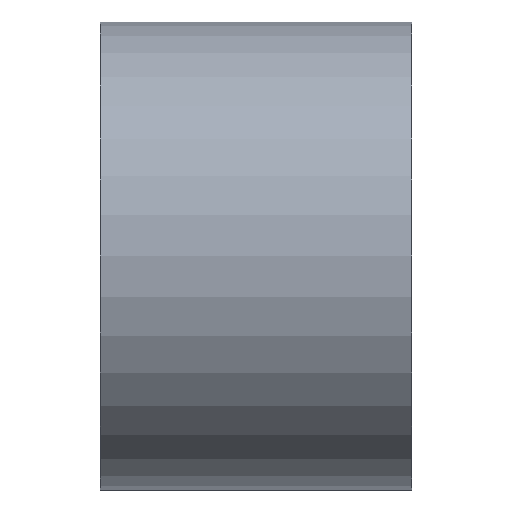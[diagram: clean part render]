
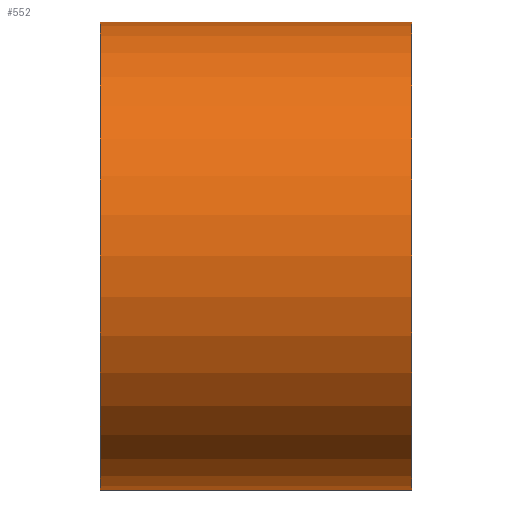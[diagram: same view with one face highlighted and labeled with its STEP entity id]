
A CAD part, front view. The second image highlights one B-rep face of the part: STEP entity #552.
In plain terms, the highlighted cylindrical face has radius 7.5 mm (diameter 15 mm), a partial arc.
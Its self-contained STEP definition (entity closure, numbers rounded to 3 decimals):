
#19 = EDGE_CURVE ( 'NONE', #706, #309, #68, .T. ) ;
#49 = EDGE_LOOP ( 'NONE', ( #528, #366, #581, #374 ) ) ;
#68 = LINE ( 'NONE', #405, #616 ) ;
#69 = DIRECTION ( 'NONE',  ( -1., 0., 0. ) ) ;
#101 = CARTESIAN_POINT ( 'NONE',  ( -5., 0., 7.5 ) ) ;
#117 = LINE ( 'NONE', #450, #322 ) ;
#161 = DIRECTION ( 'NONE',  ( 0., 0., 1. ) ) ;
#182 = DIRECTION ( 'NONE',  ( -1., 0., 0. ) ) ;
#221 = CARTESIAN_POINT ( 'NONE',  ( 5., 0., -7.5 ) ) ;
#257 = CARTESIAN_POINT ( 'NONE',  ( -5., 0., -7.5 ) ) ;
#262 = DIRECTION ( 'NONE',  ( -1., 0., 0. ) ) ;
#283 = DIRECTION ( 'NONE',  ( -1., 0., 0. ) ) ;
#286 = DIRECTION ( 'NONE',  ( 0., 0., 1. ) ) ;
#309 = VERTEX_POINT ( 'NONE', #257 ) ;
#322 = VECTOR ( 'NONE', #684, 1000. ) ;
#328 = FACE_OUTER_BOUND ( 'NONE', #49, .T. ) ;
#343 = CARTESIAN_POINT ( 'NONE',  ( -5., 0., 0. ) ) ;
#354 = EDGE_CURVE ( 'NONE', #309, #574, #468, .T. ) ;
#366 = ORIENTED_EDGE ( 'NONE', *, *, #653, .T. ) ;
#374 = ORIENTED_EDGE ( 'NONE', *, *, #354, .F. ) ;
#401 = CARTESIAN_POINT ( 'NONE',  ( 5., 0., 7.5 ) ) ;
#405 = CARTESIAN_POINT ( 'NONE',  ( 0., 0., -7.5 ) ) ;
#416 = AXIS2_PLACEMENT_3D ( 'NONE', #343, #69, #286 ) ;
#429 = AXIS2_PLACEMENT_3D ( 'NONE', #510, #283, #558 ) ;
#443 = CIRCLE ( 'NONE', #429, 7.5 ) ;
#450 = CARTESIAN_POINT ( 'NONE',  ( 0., 0., 7.5 ) ) ;
#468 = CIRCLE ( 'NONE', #416, 7.5 ) ;
#499 = AXIS2_PLACEMENT_3D ( 'NONE', #604, #262, #161 ) ;
#510 = CARTESIAN_POINT ( 'NONE',  ( 5., 0., 0. ) ) ;
#518 = EDGE_CURVE ( 'NONE', #643, #574, #117, .T. ) ;
#528 = ORIENTED_EDGE ( 'NONE', *, *, #19, .F. ) ;
#552 = ADVANCED_FACE ( 'NONE', ( #328 ), #615, .T. ) ;
#558 = DIRECTION ( 'NONE',  ( 0., 0., 1. ) ) ;
#574 = VERTEX_POINT ( 'NONE', #101 ) ;
#581 = ORIENTED_EDGE ( 'NONE', *, *, #518, .T. ) ;
#604 = CARTESIAN_POINT ( 'NONE',  ( 0., 0., 0. ) ) ;
#615 = CYLINDRICAL_SURFACE ( 'NONE', #499, 7.5 ) ;
#616 = VECTOR ( 'NONE', #182, 1000. ) ;
#643 = VERTEX_POINT ( 'NONE', #401 ) ;
#653 = EDGE_CURVE ( 'NONE', #706, #643, #443, .T. ) ;
#684 = DIRECTION ( 'NONE',  ( -1., 0., 0. ) ) ;
#706 = VERTEX_POINT ( 'NONE', #221 ) ;
